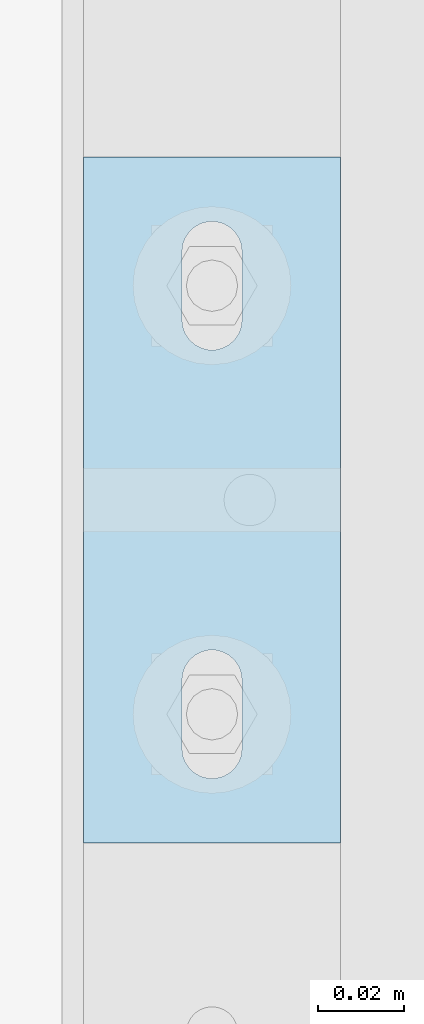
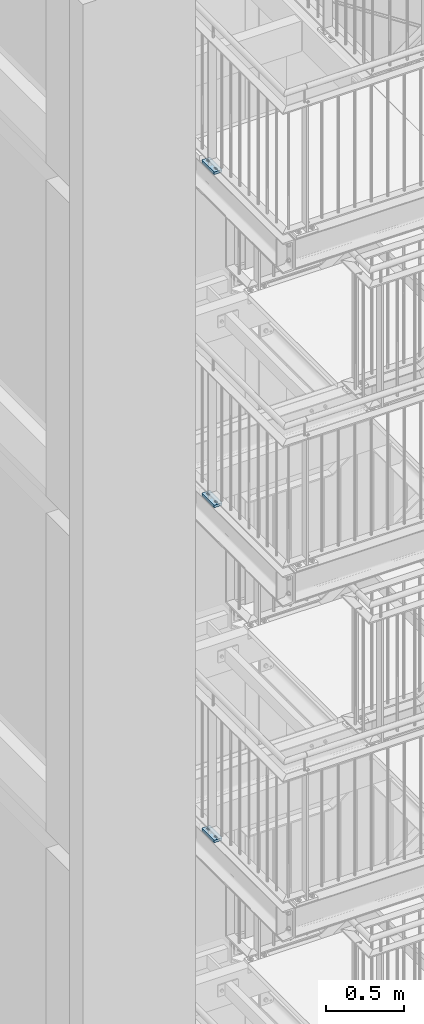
# One storey, part 158 of 831: 3 plates, 6 openings.
"""IFC2X3 building model written with IfcOpenShell, lengths in millimetres."""

from ifc_helpers import new_model, entity, si_unit, converted_unit, point, frame, frame_2d, origin, origin_with_axes, place, context, project, spatial, polyline, circle_curve, line_curve, trimmed, segment, composite_curve, outline, extrude, material, layer, layer_set, element, save


model = new_model("IFC2X3")

# Units and contexts
model_context = context("Model", 3, precision=1e-09, world=origin_with_axes())
ifc_project = project(units=[si_unit("LENGTHUNIT", "METRE", prefix="MILLI"), si_unit("AREAUNIT", "SQUARE_METRE"), si_unit("VOLUMEUNIT", "CUBIC_METRE"), converted_unit("PLANEANGLEUNIT", "DEGREE", entity("IfcPlaneAngleMeasure", 0.01745329), si_unit("PLANEANGLEUNIT", "RADIAN"), dimensions=[0, 0, 0, 0, 0, 0, 0])], contexts=[model_context])

# Site, building, storey
site_placement = place(None, origin_with_axes())
site = spatial("IfcSite", under=ifc_project, at=site_placement, Name="Site", CompositionType="ELEMENT")
building_placement = place(site_placement, origin_with_axes())
building = spatial("IfcBuilding", under=site, at=building_placement, Name="Struktur 1", CompositionType="ELEMENT")
storey_placement = place(building_placement, origin_with_axes())
storey = spatial("IfcBuildingStorey", under=building, at=storey_placement, Name="Default Storey", CompositionType="ELEMENT", Elevation=0.0)

# Plate, openings
ifc_material = material(Name="S235JR")
ifc_layer = layer(ifc_material, 20.0)
ifc_layer_set = layer_set([ifc_layer], Name="S235JR")
plate_1_placement = place(None, frame((3241.713402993, 5541.738971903, 12579.0), z_axis=(0.0, 0.0, 1.0), x_axis=(0.0, -1.0, 0.0)))
plate_1 = element("IfcPlate", 1, at=plate_1_placement, inside=storey, material=ifc_layer_set, Name="Plate#514", ObjectType="Plate#514", context=model_context, shape_type="SweptSolid", body=[
    extrude(outline(polyline([(0.0, 0.0), (160.0, 0.0), (160.0, 60.0), (0.0, 60.0), (0.0, 0.0)])), origin_with_axes(), (0.0, 0.0, 1.0), 20.0),
])
opening_1_placement = place(plate_1_placement, frame((38.0, 37.001, 20.5), z_axis=(0.0, 0.0, 1.0), x_axis=(-1.0, 0.0, 0.0)))
element("IfcOpeningElement", 2, at=opening_1_placement, cuts=plate_1, ObjectType="Opening", context=model_context, shape_type="SweptSolid", body=[
    extrude(outline(composite_curve([segment(trimmed(line_curve((0.0, 0.0), (1.0, 0.0), 16.0), [point((0.0, 0.0))], [point((16.0, 0.0))], True, "CARTESIAN"), True, "CONTINUOUS"), segment(trimmed(circle_curve(frame_2d((16.0, 7.001), x_axis=(1.0, 0.0)), 7.001), [point((16.0, 0.0))], [point((16.0, 14.002))], True, "CARTESIAN"), True, "CONTINUOUS"), segment(trimmed(line_curve((16.0, 14.002), (-1.0, 0.0), 16.0), [point((16.0, 14.002))], [point((0.0, 14.002))], True, "CARTESIAN"), True, "CONTINUOUS"), segment(trimmed(circle_curve(frame_2d((0.0, 7.001), x_axis=(1.0, 0.0)), 7.001), [point((0.0, 14.002))], [point((0.0, 0.0))], True, "CARTESIAN"), True, "CONTINUOUS")], self_intersect=False)), origin(), (0.0, 0.0, -1.0), 21.0),
])
opening_2_placement = place(plate_1_placement, frame((138.0, 37.001, 20.5), z_axis=(0.0, 0.0, 1.0), x_axis=(-1.0, 0.0, 0.0)))
element("IfcOpeningElement", 3, at=opening_2_placement, cuts=plate_1, ObjectType="Opening", context=model_context, shape_type="SweptSolid", body=[
    extrude(outline(composite_curve([segment(trimmed(line_curve((0.0, 0.0), (1.0, 0.0), 16.0), [point((0.0, 0.0))], [point((16.0, 0.0))], True, "CARTESIAN"), True, "CONTINUOUS"), segment(trimmed(circle_curve(frame_2d((16.0, 7.001), x_axis=(1.0, 0.0)), 7.001), [point((16.0, 0.0))], [point((16.0, 14.002))], True, "CARTESIAN"), True, "CONTINUOUS"), segment(trimmed(line_curve((16.0, 14.002), (-1.0, 0.0), 16.0), [point((16.0, 14.002))], [point((0.0, 14.002))], True, "CARTESIAN"), True, "CONTINUOUS"), segment(trimmed(circle_curve(frame_2d((0.0, 7.001), x_axis=(1.0, 0.0)), 7.001), [point((0.0, 14.002))], [point((0.0, 0.0))], True, "CARTESIAN"), True, "CONTINUOUS")], self_intersect=False)), origin(), (0.0, 0.0, -1.0), 21.0),
])

plate_2_placement = place(None, frame((3241.713402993, 5541.738971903, 15214.0), z_axis=(0.0, 0.0, 1.0), x_axis=(0.0, -1.0, 0.0)))
plate_2 = element("IfcPlate", 4, at=plate_2_placement, inside=storey, material=ifc_layer_set, Name="Plate#514", ObjectType="Plate#514", context=model_context, shape_type="SweptSolid", body=[
    extrude(outline(polyline([(0.0, 0.0), (160.0, 0.0), (160.0, 60.0), (0.0, 60.0), (0.0, 0.0)])), origin_with_axes(), (0.0, 0.0, 1.0), 20.0),
])
opening_3_placement = place(plate_2_placement, frame((38.0, 37.001, 20.5), z_axis=(0.0, 0.0, 1.0), x_axis=(-1.0, 0.0, 0.0)))
element("IfcOpeningElement", 5, at=opening_3_placement, cuts=plate_2, ObjectType="Opening", context=model_context, shape_type="SweptSolid", body=[
    extrude(outline(composite_curve([segment(trimmed(line_curve((0.0, 0.0), (1.0, 0.0), 16.0), [point((0.0, 0.0))], [point((16.0, 0.0))], True, "CARTESIAN"), True, "CONTINUOUS"), segment(trimmed(circle_curve(frame_2d((16.0, 7.001), x_axis=(1.0, 0.0)), 7.001), [point((16.0, 0.0))], [point((16.0, 14.002))], True, "CARTESIAN"), True, "CONTINUOUS"), segment(trimmed(line_curve((16.0, 14.002), (-1.0, 0.0), 16.0), [point((16.0, 14.002))], [point((0.0, 14.002))], True, "CARTESIAN"), True, "CONTINUOUS"), segment(trimmed(circle_curve(frame_2d((0.0, 7.001), x_axis=(1.0, 0.0)), 7.001), [point((0.0, 14.002))], [point((0.0, 0.0))], True, "CARTESIAN"), True, "CONTINUOUS")], self_intersect=False)), origin(), (0.0, 0.0, -1.0), 21.0),
])
opening_4_placement = place(plate_2_placement, frame((138.0, 37.001, 20.5), z_axis=(0.0, 0.0, 1.0), x_axis=(-1.0, 0.0, 0.0)))
element("IfcOpeningElement", 6, at=opening_4_placement, cuts=plate_2, ObjectType="Opening", context=model_context, shape_type="SweptSolid", body=[
    extrude(outline(composite_curve([segment(trimmed(line_curve((0.0, 0.0), (1.0, 0.0), 16.0), [point((0.0, 0.0))], [point((16.0, 0.0))], True, "CARTESIAN"), True, "CONTINUOUS"), segment(trimmed(circle_curve(frame_2d((16.0, 7.001), x_axis=(1.0, 0.0)), 7.001), [point((16.0, 0.0))], [point((16.0, 14.002))], True, "CARTESIAN"), True, "CONTINUOUS"), segment(trimmed(line_curve((16.0, 14.002), (-1.0, 0.0), 16.0), [point((16.0, 14.002))], [point((0.0, 14.002))], True, "CARTESIAN"), True, "CONTINUOUS"), segment(trimmed(circle_curve(frame_2d((0.0, 7.001), x_axis=(1.0, 0.0)), 7.001), [point((0.0, 14.002))], [point((0.0, 0.0))], True, "CARTESIAN"), True, "CONTINUOUS")], self_intersect=False)), origin(), (0.0, 0.0, -1.0), 21.0),
])

plate_3_placement = place(None, frame((3241.713402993, 5541.738971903, 17834.0), z_axis=(0.0, 0.0, 1.0), x_axis=(0.0, -1.0, 0.0)))
plate_3 = element("IfcPlate", 7, at=plate_3_placement, inside=storey, material=ifc_layer_set, Name="Plate#514", ObjectType="Plate#514", context=model_context, shape_type="SweptSolid", body=[
    extrude(outline(polyline([(0.0, 0.0), (160.0, 0.0), (160.0, 60.0), (0.0, 60.0), (0.0, 0.0)])), origin_with_axes(), (0.0, 0.0, 1.0), 20.0),
])
opening_5_placement = place(plate_3_placement, frame((38.0, 37.001, 20.5), z_axis=(0.0, 0.0, 1.0), x_axis=(-1.0, 0.0, 0.0)))
element("IfcOpeningElement", 8, at=opening_5_placement, cuts=plate_3, ObjectType="Opening", context=model_context, shape_type="SweptSolid", body=[
    extrude(outline(composite_curve([segment(trimmed(line_curve((0.0, 0.0), (1.0, 0.0), 16.0), [point((0.0, 0.0))], [point((16.0, 0.0))], True, "CARTESIAN"), True, "CONTINUOUS"), segment(trimmed(circle_curve(frame_2d((16.0, 7.001), x_axis=(1.0, 0.0)), 7.001), [point((16.0, 0.0))], [point((16.0, 14.002))], True, "CARTESIAN"), True, "CONTINUOUS"), segment(trimmed(line_curve((16.0, 14.002), (-1.0, 0.0), 16.0), [point((16.0, 14.002))], [point((0.0, 14.002))], True, "CARTESIAN"), True, "CONTINUOUS"), segment(trimmed(circle_curve(frame_2d((0.0, 7.001), x_axis=(1.0, 0.0)), 7.001), [point((0.0, 14.002))], [point((0.0, 0.0))], True, "CARTESIAN"), True, "CONTINUOUS")], self_intersect=False)), origin(), (0.0, 0.0, -1.0), 21.0),
])
opening_6_placement = place(plate_3_placement, frame((138.0, 37.001, 20.5), z_axis=(0.0, 0.0, 1.0), x_axis=(-1.0, 0.0, 0.0)))
element("IfcOpeningElement", 9, at=opening_6_placement, cuts=plate_3, ObjectType="Opening", context=model_context, shape_type="SweptSolid", body=[
    extrude(outline(composite_curve([segment(trimmed(line_curve((0.0, 0.0), (1.0, 0.0), 16.0), [point((0.0, 0.0))], [point((16.0, 0.0))], True, "CARTESIAN"), True, "CONTINUOUS"), segment(trimmed(circle_curve(frame_2d((16.0, 7.001), x_axis=(1.0, 0.0)), 7.001), [point((16.0, 0.0))], [point((16.0, 14.002))], True, "CARTESIAN"), True, "CONTINUOUS"), segment(trimmed(line_curve((16.0, 14.002), (-1.0, 0.0), 16.0), [point((16.0, 14.002))], [point((0.0, 14.002))], True, "CARTESIAN"), True, "CONTINUOUS"), segment(trimmed(circle_curve(frame_2d((0.0, 7.001), x_axis=(1.0, 0.0)), 7.001), [point((0.0, 14.002))], [point((0.0, 0.0))], True, "CARTESIAN"), True, "CONTINUOUS")], self_intersect=False)), origin(), (0.0, 0.0, -1.0), 21.0),
])

save(model, "model.ifc")
